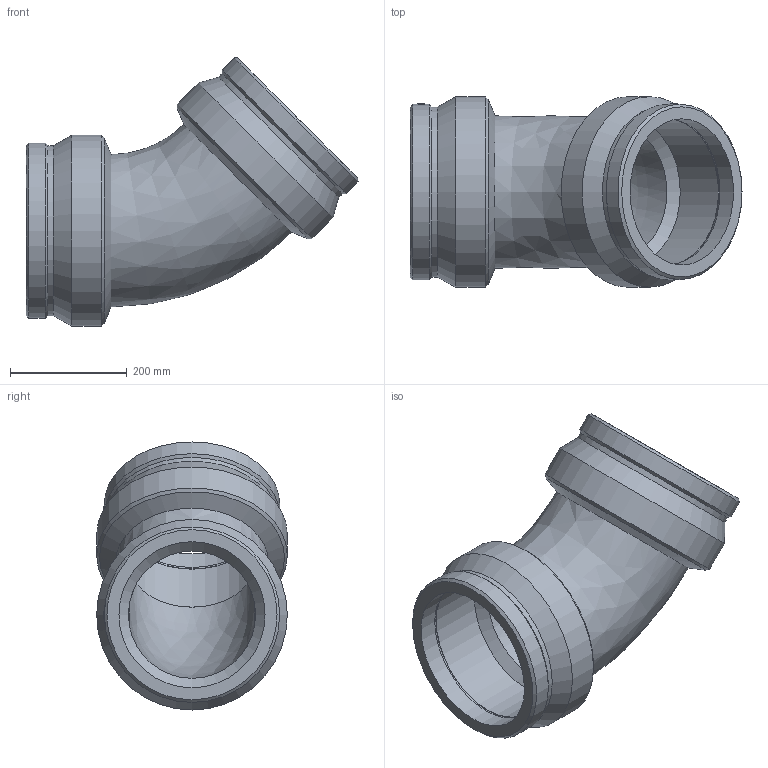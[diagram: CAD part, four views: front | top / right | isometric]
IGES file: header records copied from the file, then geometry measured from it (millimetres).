
Global section: file name: 490604250.ipt; native system: Autodesk Inventor 2015; preprocessor: unknown; author: KIM; date: 20171106.093701; units: millimetre
Bounding box: 567.82 x 326 x 458.45 mm (x, y, z)
Volume: 11821508.1 mm3; surface area: 971479.7 mm2
Topology: 1 solids, 1 shells, 42 faces, 98 edges, 64 vertices
Faces by surface type: revolution 12, cone 10, cylinder 10, plane 10
Full cylindrical faces by diameter (mm): 4.8 x2, 12 x2, 290.922 x2, 299.92 x2, 326 x2
